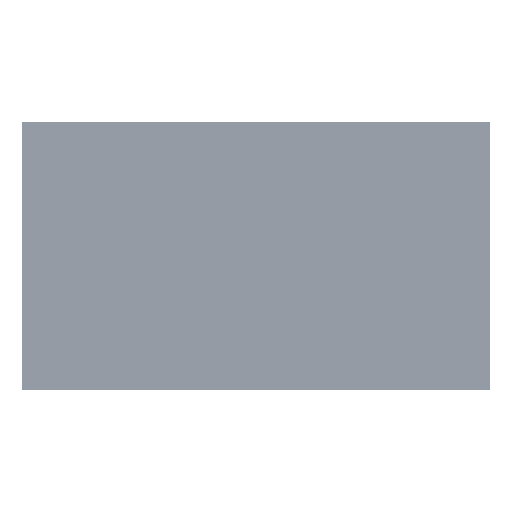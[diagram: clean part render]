
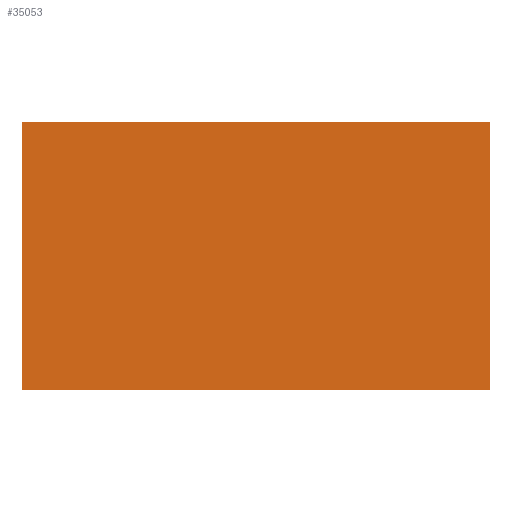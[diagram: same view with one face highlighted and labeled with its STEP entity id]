
A CAD part, left-side view. The second image highlights one B-rep face of the part: STEP entity #35053.
In plain terms, the highlighted planar face has unit normal (-1, 0, 0).
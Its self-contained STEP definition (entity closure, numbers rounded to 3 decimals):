
#34958=DIRECTION('',(0.,-1.,0.));
#34959=VECTOR('',#34958,1116.865);
#34960=CARTESIAN_POINT('',(-1032.998,558.445,
303.548));
#34961=LINE('',#34960,#34959);
#34962=DIRECTION('',(0.,0.,-1.));
#34963=VECTOR('',#34962,639.011);
#34964=CARTESIAN_POINT('',(-1032.998,-558.419,
303.548));
#34965=LINE('',#34964,#34963);
#34966=DIRECTION('',(0.,-1.,0.));
#34967=VECTOR('',#34966,1116.865);
#34968=CARTESIAN_POINT('',(-1032.998,558.445,
-335.464));
#34969=LINE('',#34968,#34967);
#34970=DIRECTION('',(0.,0.,-1.));
#34971=VECTOR('',#34970,639.011);
#34972=CARTESIAN_POINT('',(-1032.998,558.445,
303.548));
#34973=LINE('',#34972,#34971);
#35030=CARTESIAN_POINT('',(-1032.998,-558.419,
303.548));
#35031=VERTEX_POINT('',#35030);
#35032=CARTESIAN_POINT('',(-1032.998,-558.419,
-335.464));
#35033=VERTEX_POINT('',#35032);
#35034=CARTESIAN_POINT('',(-1032.998,558.445,
303.548));
#35035=VERTEX_POINT('',#35034);
#35036=CARTESIAN_POINT('',(-1032.998,558.445,
-335.464));
#35037=VERTEX_POINT('',#35036);
#35038=CARTESIAN_POINT('',(-1032.998,-753.31,-571.5));
#35039=DIRECTION('',(1.,0.,0.));
#35040=DIRECTION('',(0.,1.,0.));
#35041=AXIS2_PLACEMENT_3D('',#35038,#35039,#35040);
#35042=PLANE('',#35041);
#35044=ORIENTED_EDGE('',*,*,#35043,.T.);
#35046=ORIENTED_EDGE('',*,*,#35045,.T.);
#35048=ORIENTED_EDGE('',*,*,#35047,.F.);
#35050=ORIENTED_EDGE('',*,*,#35049,.F.);
#35051=EDGE_LOOP('',(#35044,#35046,#35048,#35050));
#35052=FACE_OUTER_BOUND('',#35051,.F.);
#35043=EDGE_CURVE('',#35035,#35031,#34961,.T.);
#35045=EDGE_CURVE('',#35031,#35033,#34965,.T.);
#35047=EDGE_CURVE('',#35037,#35033,#34969,.T.);
#35049=EDGE_CURVE('',#35035,#35037,#34973,.T.);
#35053=ADVANCED_FACE('',(#35052),#35042,.F.);
